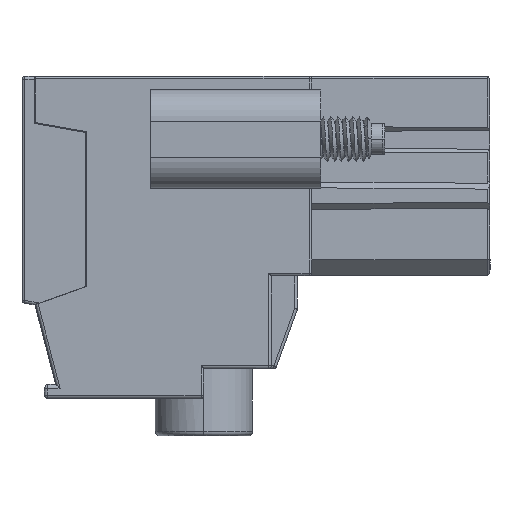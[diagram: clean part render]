
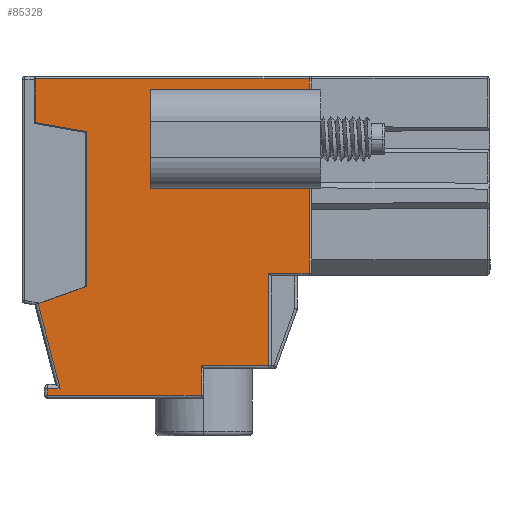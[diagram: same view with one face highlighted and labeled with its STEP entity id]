
A CAD part, left-side view. The second image highlights one B-rep face of the part: STEP entity #85328.
In plain terms, the highlighted planar face has unit normal (-1, 0, 0).
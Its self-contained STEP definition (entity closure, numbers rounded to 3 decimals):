
#7281=DIRECTION('',(0.,1.,0.));
#7282=VECTOR('',#7281,30.4);
#7283=CARTESIAN_POINT('',(11.55,20.1,-0.3));
#7284=LINE('',#7283,#7282);
#7295=DIRECTION('',(0.,0.,1.));
#7296=VECTOR('',#7295,1.2);
#7297=CARTESIAN_POINT('',(11.55,20.1,-1.5));
#7298=LINE('',#7297,#7296);
#7307=DIRECTION('',(0.,-1.,0.));
#7308=VECTOR('',#7307,17.6);
#7309=CARTESIAN_POINT('',(11.55,37.7,-1.5));
#7310=LINE('',#7309,#7308);
#7353=DIRECTION('',(0.,1.,0.));
#7354=VECTOR('',#7353,17.6);
#7355=CARTESIAN_POINT('',(11.55,20.1,-12.5));
#7356=LINE('',#7355,#7354);
#7430=DIRECTION('',(0.,0.,1.));
#7431=VECTOR('',#7430,1.2);
#7432=CARTESIAN_POINT('',(11.55,37.7,-12.5));
#7433=LINE('',#7432,#7431);
#7444=DIRECTION('',(0.,0.,1.));
#7445=VECTOR('',#7444,1.2);
#7446=CARTESIAN_POINT('',(11.55,37.7,-2.7));
#7447=LINE('',#7446,#7445);
#7472=DIRECTION('',(0.,0.252,0.968));
#7473=VECTOR('',#7472,9.74);
#7474=CARTESIAN_POINT('',(11.55,47.766,-34.726));
#7475=LINE('',#7474,#7473);
#7476=DIRECTION('',(0.,-0.943,0.333));
#7477=VECTOR('',#7476,5.745);
#7478=CARTESIAN_POINT('',(11.55,50.216,-25.3));
#7479=LINE('',#7478,#7477);
#7480=DIRECTION('',(0.,0.985,0.174));
#7481=VECTOR('',#7480,5.788);
#7482=CARTESIAN_POINT('',(11.55,44.8,-6.185));
#7483=LINE('',#7482,#7481);
#7484=DIRECTION('',(0.,0.,1.));
#7485=VECTOR('',#7484,4.88);
#7486=CARTESIAN_POINT('',(11.55,50.5,-5.18));
#7487=LINE('',#7486,#7485);
#7492=DIRECTION('',(0.,0.,1.));
#7493=VECTOR('',#7492,9.4);
#7494=CARTESIAN_POINT('',(11.55,20.1,-21.9));
#7495=LINE('',#7494,#7493);
#7506=DIRECTION('',(0.,-1.,0.));
#7507=VECTOR('',#7506,4.5);
#7508=CARTESIAN_POINT('',(11.55,24.6,-21.9));
#7509=LINE('',#7508,#7507);
#7519=DIRECTION('',(0.,0.,1.));
#7520=VECTOR('',#7519,10.3);
#7521=CARTESIAN_POINT('',(11.55,24.6,-32.2));
#7522=LINE('',#7521,#7520);
#11483=DIRECTION('',(0.,0.,-1.));
#11484=VECTOR('',#11483,17.2);
#11485=CARTESIAN_POINT('',(11.55,44.8,-6.185));
#11486=LINE('',#11485,#11484);
#11535=DIRECTION('',(0.,1.,-0.009));
#11536=VECTOR('',#11535,1.434);
#11537=CARTESIAN_POINT('',(11.55,47.766,-34.726));
#11538=LINE('',#11537,#11536);
#11539=CARTESIAN_POINT('',(11.55,49.2,
-34.739));
#11556=DIRECTION('',(0.,0.,-1.));
#11557=VECTOR('',#11556,0.761);
#11558=CARTESIAN_POINT('',(11.55,49.2,
-34.739));
#11559=LINE('',#11558,#11557);
#33119=DIRECTION('',(0.,0.,1.));
#33120=VECTOR('',#33119,3.3);
#33121=CARTESIAN_POINT('',(11.55,32.1,-35.5));
#33122=LINE('',#33121,#33120);
#33148=DIRECTION('',(0.,-1.,0.));
#33149=VECTOR('',#33148,7.5);
#33150=CARTESIAN_POINT('',(11.55,32.1,-32.2));
#33151=LINE('',#33150,#33149);
#33166=DIRECTION('',(0.,-1.,0.));
#33167=VECTOR('',#33166,17.1);
#33168=CARTESIAN_POINT('',(11.55,49.2,-35.5));
#33169=LINE('',#33168,#33167);
#58656=DIRECTION('',(0.,1.,0.));
#58657=VECTOR('',#58656,7.8);
#58658=CARTESIAN_POINT('',(11.55,29.9,-2.7));
#58659=LINE('',#58658,#58657);
#58668=DIRECTION('',(0.,-1.,0.));
#58669=VECTOR('',#58668,7.8);
#58670=CARTESIAN_POINT('',(11.55,37.7,-11.3));
#58671=LINE('',#58670,#58669);
#58686=DIRECTION('',(0.,0.,1.));
#58687=VECTOR('',#58686,8.6);
#58688=CARTESIAN_POINT('',(11.55,29.9,-11.3));
#58689=LINE('',#58688,#58687);
#60563=CARTESIAN_POINT('',(11.55,50.5,-0.3));
#60565=VERTEX_POINT('',#60563);
#61383=CARTESIAN_POINT('',(11.55,50.5,-5.18));
#61384=VERTEX_POINT('',#61383);
#61385=CARTESIAN_POINT('',(11.55,20.1,-12.5));
#61386=CARTESIAN_POINT('',(11.55,37.7,-12.5));
#61387=VERTEX_POINT('',#61385);
#61388=VERTEX_POINT('',#61386);
#61389=CARTESIAN_POINT('',(11.55,20.1,-21.9));
#61390=VERTEX_POINT('',#61389);
#61391=CARTESIAN_POINT('',(11.55,47.766,-34.726));
#61392=CARTESIAN_POINT('',(11.55,50.216,-25.3));
#61393=VERTEX_POINT('',#61391);
#61394=VERTEX_POINT('',#61392);
#61395=CARTESIAN_POINT('',(11.55,44.8,-23.385));
#61396=VERTEX_POINT('',#61395);
#61397=CARTESIAN_POINT('',(11.55,44.8,-6.185));
#61398=VERTEX_POINT('',#61397);
#61399=CARTESIAN_POINT('',(11.55,20.1,-1.5));
#61400=CARTESIAN_POINT('',(11.55,20.1,-0.3));
#61401=VERTEX_POINT('',#61399);
#61402=VERTEX_POINT('',#61400);
#61403=CARTESIAN_POINT('',(11.55,29.9,-2.7));
#61404=CARTESIAN_POINT('',(11.55,37.7,-2.7));
#61405=VERTEX_POINT('',#61403);
#61406=VERTEX_POINT('',#61404);
#61419=CARTESIAN_POINT('',(11.55,37.7,-1.5));
#61420=VERTEX_POINT('',#61419);
#61459=CARTESIAN_POINT('',(11.55,37.7,-11.3));
#61460=VERTEX_POINT('',#61459);
#61473=CARTESIAN_POINT('',(11.55,29.9,-11.3));
#61474=VERTEX_POINT('',#61473);
#61493=CARTESIAN_POINT('',(11.55,24.6,-21.9));
#61494=VERTEX_POINT('',#61493);
#62045=CARTESIAN_POINT('',(11.55,49.2,-35.5));
#62046=VERTEX_POINT('',#62045);
#62047=VERTEX_POINT('',#11539);
#63657=CARTESIAN_POINT('',(11.55,32.1,-35.5));
#63658=VERTEX_POINT('',#63657);
#63661=CARTESIAN_POINT('',(11.55,32.1,-32.2));
#63662=VERTEX_POINT('',#63661);
#64203=CARTESIAN_POINT('',(11.55,24.6,-32.2));
#64204=VERTEX_POINT('',#64203);
#85284=CARTESIAN_POINT('',(11.55,35.3,-17.9));
#85285=DIRECTION('',(1.,0.,0.));
#85286=DIRECTION('',(0.,0.,-1.));
#85287=AXIS2_PLACEMENT_3D('',#85284,#85285,#85286);
#85288=PLANE('',#85287);
#85289=ORIENTED_EDGE('',*,*,#85157,.F.);
#85291=ORIENTED_EDGE('',*,*,#85290,.F.);
#85293=ORIENTED_EDGE('',*,*,#85292,.F.);
#85295=ORIENTED_EDGE('',*,*,#85294,.F.);
#85297=ORIENTED_EDGE('',*,*,#85296,.F.);
#85299=ORIENTED_EDGE('',*,*,#85298,.F.);
#85301=ORIENTED_EDGE('',*,*,#85300,.F.);
#85303=ORIENTED_EDGE('',*,*,#85302,.F.);
#85305=ORIENTED_EDGE('',*,*,#85304,.F.);
#85307=ORIENTED_EDGE('',*,*,#85306,.T.);
#85309=ORIENTED_EDGE('',*,*,#85308,.T.);
#85311=ORIENTED_EDGE('',*,*,#85310,.F.);
#85313=ORIENTED_EDGE('',*,*,#85312,.T.);
#85314=ORIENTED_EDGE('',*,*,#85006,.T.);
#85315=ORIENTED_EDGE('',*,*,#85031,.F.);
#85316=ORIENTED_EDGE('',*,*,#85056,.F.);
#85317=ORIENTED_EDGE('',*,*,#85077,.F.);
#85318=ORIENTED_EDGE('',*,*,#85269,.F.);
#85320=ORIENTED_EDGE('',*,*,#85319,.F.);
#85322=ORIENTED_EDGE('',*,*,#85321,.F.);
#85324=ORIENTED_EDGE('',*,*,#85323,.F.);
#85325=ORIENTED_EDGE('',*,*,#85259,.F.);
#85326=EDGE_LOOP('',(#85289,#85291,#85293,#85295,#85297,#85299,#85301,#85303,
#85305,#85307,#85309,#85311,#85313,#85314,#85315,#85316,#85317,#85318,#85320,
#85322,#85324,#85325));
#85327=FACE_OUTER_BOUND('',#85326,.F.);
#85328=ADVANCED_FACE('',(#85327),#85288,.F.);
#85006=EDGE_CURVE('',#61384,#60565,#7487,.T.);
#85031=EDGE_CURVE('',#61402,#60565,#7284,.T.);
#85056=EDGE_CURVE('',#61401,#61402,#7298,.T.);
#85077=EDGE_CURVE('',#61420,#61401,#7310,.T.);
#85157=EDGE_CURVE('',#61387,#61388,#7356,.T.);
#85259=EDGE_CURVE('',#61388,#61460,#7433,.T.);
#85269=EDGE_CURVE('',#61406,#61420,#7447,.T.);
#85290=EDGE_CURVE('',#61390,#61387,#7495,.T.);
#85292=EDGE_CURVE('',#61494,#61390,#7509,.T.);
#85294=EDGE_CURVE('',#64204,#61494,#7522,.T.);
#85296=EDGE_CURVE('',#63662,#64204,#33151,.T.);
#85298=EDGE_CURVE('',#63658,#63662,#33122,.T.);
#85300=EDGE_CURVE('',#62046,#63658,#33169,.T.);
#85302=EDGE_CURVE('',#62047,#62046,#11559,.T.);
#85304=EDGE_CURVE('',#61393,#62047,#11538,.T.);
#85306=EDGE_CURVE('',#61393,#61394,#7475,.T.);
#85308=EDGE_CURVE('',#61394,#61396,#7479,.T.);
#85310=EDGE_CURVE('',#61398,#61396,#11486,.T.);
#85312=EDGE_CURVE('',#61398,#61384,#7483,.T.);
#85319=EDGE_CURVE('',#61405,#61406,#58659,.T.);
#85321=EDGE_CURVE('',#61474,#61405,#58689,.T.);
#85323=EDGE_CURVE('',#61460,#61474,#58671,.T.);
